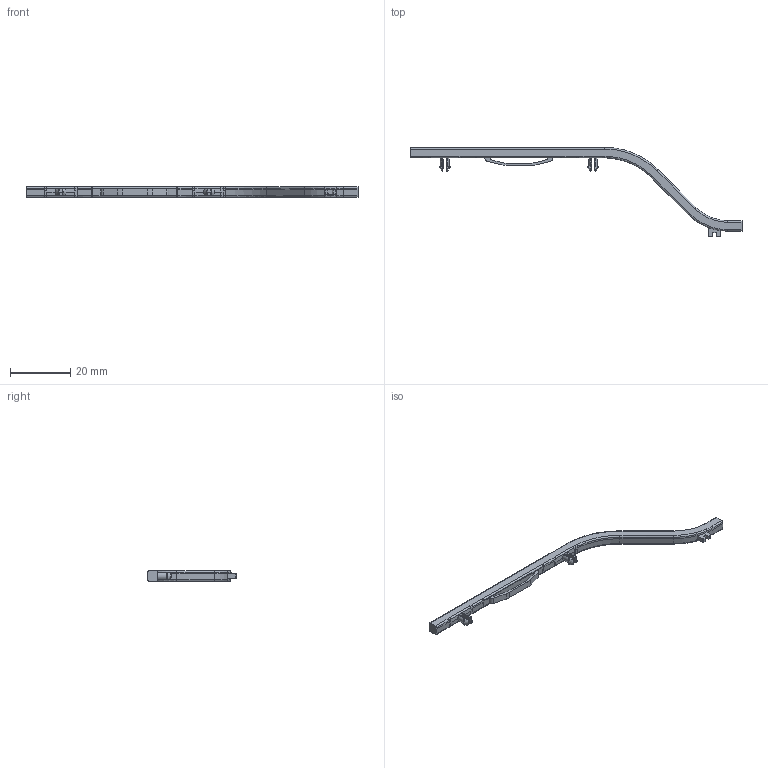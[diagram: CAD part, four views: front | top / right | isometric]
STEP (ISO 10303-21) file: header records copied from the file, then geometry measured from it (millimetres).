
FILE_DESCRIPTION((''),'2;1');
FILE_NAME('125400000233A_LIGHT-PIPE','2019-07-31T',('curtis_chen'),(''),'PRO/ENGINEER BY PARAMETRIC TECHNOLOGY CORPORATION, 2012480','PRO/ENGINEER BY PARAMETRIC TECHNOLOGY CORPORATION, 2012480','');
FILE_SCHEMA(('AUTOMOTIVE_DESIGN { 1 0 10303 214 1 1 1 1 }'));
Length unit declared in the file: millimetre
Products named in the file (1): 125400000233A_LIGHT-PIPE
Bounding box: 110.19 x 29.6 x 3.5 mm (x, y, z)
Volume: 1462.3 mm3; surface area: 1794.3 mm2
Topology: 1 solids, 1 shells, 184 faces, 465 edges, 281 vertices
Faces by surface type: plane 92, cylinder 42, bspline 21, cone 18, torus 9, extrusion 2
Entity records: 8311 total; most frequent: CARTESIAN_POINT 2709, ORIENTED_EDGE 930, DIRECTION 733, PRESENTATION_STYLE_ASSIGNMENT 466, STYLED_ITEM 466, CURVE_STYLE 465, EDGE_CURVE 465, VECTOR 287
